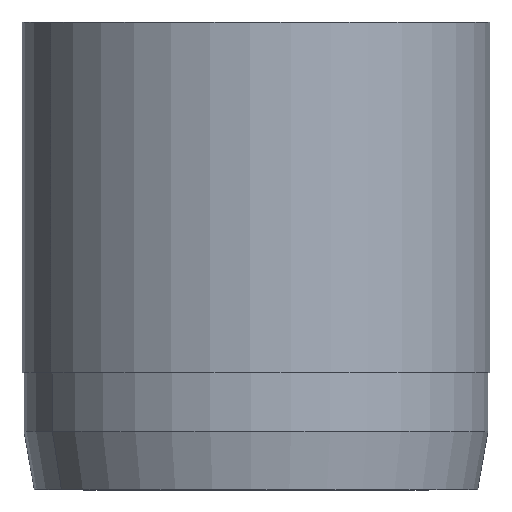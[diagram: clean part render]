
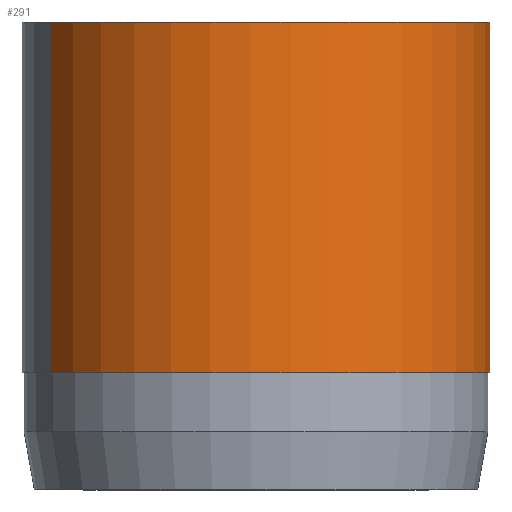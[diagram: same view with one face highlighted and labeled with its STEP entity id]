
A CAD part, left-side view. The second image highlights one B-rep face of the part: STEP entity #291.
In plain terms, the highlighted cylindrical face has radius 6 mm (diameter 12 mm), a partial arc.
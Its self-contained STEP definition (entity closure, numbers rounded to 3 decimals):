
#252=CARTESIAN_POINT('Axis2P3D Location',(0.,0.,6.)) ;
#257=CARTESIAN_POINT('Line Origine',(2.877,-5.265,7.5)) ;
#261=CARTESIAN_POINT('Vertex',(2.877,-5.265,3.)) ;
#263=CARTESIAN_POINT('Vertex',(2.877,-5.265,12.)) ;
#266=CARTESIAN_POINT('Axis2P3D Location',(0.,0.,12.)) ;
#270=CARTESIAN_POINT('Vertex',(-2.877,5.265,12.)) ;
#273=CARTESIAN_POINT('Line Origine',(-2.877,5.265,7.5)) ;
#277=CARTESIAN_POINT('Vertex',(-2.877,5.265,3.)) ;
#280=CARTESIAN_POINT('Axis2P3D Location',(0.,0.,3.)) ;
#253=DIRECTION('Axis2P3D Direction',(0.,0.,1.)) ;
#254=DIRECTION('Axis2P3D XDirection',(-0.479,0.878,0.)) ;
#258=DIRECTION('Vector Direction',(0.,0.,1.)) ;
#267=DIRECTION('Axis2P3D Direction',(0.,0.,1.)) ;
#274=DIRECTION('Vector Direction',(0.,0.,1.)) ;
#281=DIRECTION('Axis2P3D Direction',(0.,0.,1.)) ;
#255=AXIS2_PLACEMENT_3D('Cylinder Axis2P3D',#252,#253,#254) ;
#268=AXIS2_PLACEMENT_3D('Circle Axis2P3D',#266,#267,$) ;
#282=AXIS2_PLACEMENT_3D('Circle Axis2P3D',#280,#281,$) ;
#286=ORIENTED_EDGE('',*,*,#265,.T.) ;
#287=ORIENTED_EDGE('',*,*,#272,.F.) ;
#288=ORIENTED_EDGE('',*,*,#279,.F.) ;
#289=ORIENTED_EDGE('',*,*,#284,.T.) ;
#259=VECTOR('Line Direction',#258,1.) ;
#275=VECTOR('Line Direction',#274,1.) ;
#291=ADVANCED_FACE('\X2\FF8AFF9FFF70FF82\X0\ \X2\FF8EFF9EFF83FF9EFF68FF70\X0\',(#290),#256,.T.) ;
#269=CIRCLE('generated circle',#268,6.) ;
#283=CIRCLE('generated circle',#282,6.) ;
#256=CYLINDRICAL_SURFACE('generated cylinder',#255,6.) ;
#265=EDGE_CURVE('',#262,#264,#260,.T.) ;
#272=EDGE_CURVE('',#271,#264,#269,.T.) ;
#279=EDGE_CURVE('',#278,#271,#276,.T.) ;
#284=EDGE_CURVE('',#278,#262,#283,.T.) ;
#285=EDGE_LOOP('',(#286,#287,#288,#289)) ;
#290=FACE_OUTER_BOUND('',#285,.T.) ;
#260=LINE('Line',#257,#259) ;
#276=LINE('Line',#273,#275) ;
#262=VERTEX_POINT('',#261) ;
#264=VERTEX_POINT('',#263) ;
#271=VERTEX_POINT('',#270) ;
#278=VERTEX_POINT('',#277) ;
